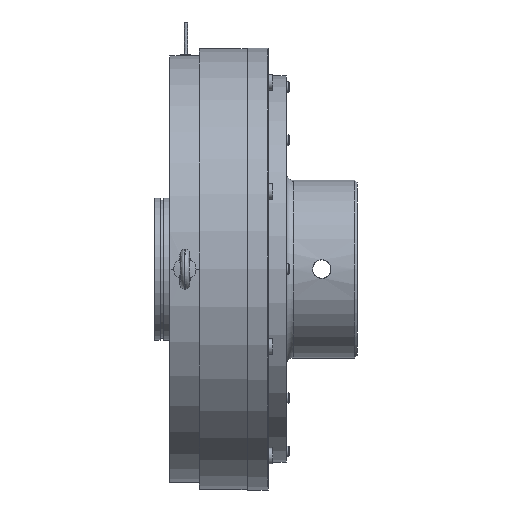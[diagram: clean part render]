
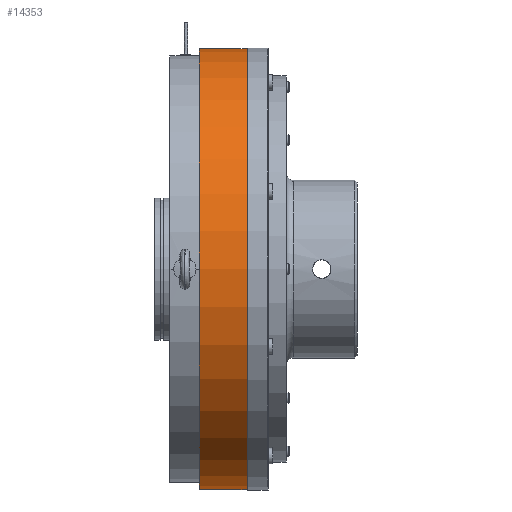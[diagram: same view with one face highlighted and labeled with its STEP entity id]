
A CAD part, front view. The second image highlights one B-rep face of the part: STEP entity #14353.
In plain terms, the highlighted cylindrical face has radius 248 mm (diameter 496 mm), a full revolution.
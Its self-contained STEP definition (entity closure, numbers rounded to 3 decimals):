
#1101=FACE_OUTER_BOUND('',#1957,.T.);
#1957=EDGE_LOOP('',(#10541,#10542,#10543,#10544,#10545,#10546));
#3020=CIRCLE('',#15567,248.);
#3021=CIRCLE('',#15568,248.);
#3048=CIRCLE('',#15603,248.);
#3049=CIRCLE('',#15604,248.);
#4109=LINE('',#24135,#4825);
#4825=VECTOR('',#18664,248.);
#5802=VERTEX_POINT('',#24062);
#5803=VERTEX_POINT('',#24063);
#5830=VERTEX_POINT('',#24130);
#5831=VERTEX_POINT('',#24131);
#7547=EDGE_CURVE('',#5802,#5803,#3020,.T.);
#7548=EDGE_CURVE('',#5803,#5802,#3021,.T.);
#7579=EDGE_CURVE('',#5830,#5831,#3048,.T.);
#7580=EDGE_CURVE('',#5831,#5830,#3049,.T.);
#7581=EDGE_CURVE('',#5803,#5831,#4109,.T.);
#10541=ORIENTED_EDGE('',*,*,#7547,.F.);
#10542=ORIENTED_EDGE('',*,*,#7548,.F.);
#10543=ORIENTED_EDGE('',*,*,#7581,.T.);
#10544=ORIENTED_EDGE('',*,*,#7580,.T.);
#10545=ORIENTED_EDGE('',*,*,#7579,.T.);
#10546=ORIENTED_EDGE('',*,*,#7581,.F.);
#13385=CYLINDRICAL_SURFACE('',#15605,248.);
#14353=ADVANCED_FACE('',(#1101),#13385,.T.);
#15567=AXIS2_PLACEMENT_3D('',#24064,#18582,#18583);
#15568=AXIS2_PLACEMENT_3D('',#24065,#18584,#18585);
#15603=AXIS2_PLACEMENT_3D('',#24132,#18658,#18659);
#15604=AXIS2_PLACEMENT_3D('',#24133,#18660,#18661);
#15605=AXIS2_PLACEMENT_3D('',#24134,#18662,#18663);
#18582=DIRECTION('center_axis',(1.,0.,0.));
#18583=DIRECTION('ref_axis',(0.,-1.,0.));
#18584=DIRECTION('center_axis',(1.,0.,0.));
#18585=DIRECTION('ref_axis',(0.,-1.,0.));
#18658=DIRECTION('center_axis',(1.,0.,0.));
#18659=DIRECTION('ref_axis',(0.,-1.,0.));
#18660=DIRECTION('center_axis',(1.,0.,0.));
#18661=DIRECTION('ref_axis',(0.,-1.,0.));
#18662=DIRECTION('center_axis',(1.,0.,0.));
#18663=DIRECTION('ref_axis',(0.,-1.,0.));
#18664=DIRECTION('',(-1.,0.,0.));
#24062=CARTESIAN_POINT('',(55.5,-248.,0.));
#24063=CARTESIAN_POINT('',(55.5,248.,0.));
#24064=CARTESIAN_POINT('Origin',(55.5,0.,
0.));
#24065=CARTESIAN_POINT('Origin',(55.5,0.,
0.));
#24130=CARTESIAN_POINT('',(1.5,-248.,0.));
#24131=CARTESIAN_POINT('',(1.5,248.,0.));
#24132=CARTESIAN_POINT('Origin',(1.5,0.,0.));
#24133=CARTESIAN_POINT('Origin',(1.5,0.,0.));
#24134=CARTESIAN_POINT('Origin',(28.5,0.,0.));
#24135=CARTESIAN_POINT('',(28.5,248.,0.));
